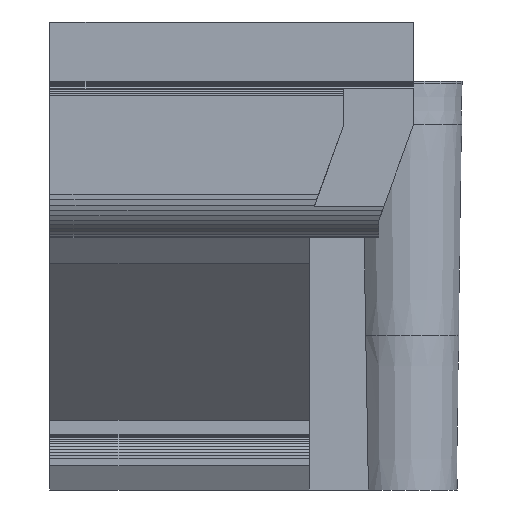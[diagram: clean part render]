
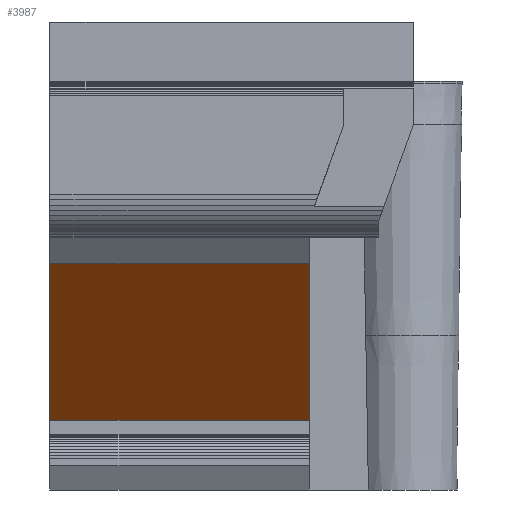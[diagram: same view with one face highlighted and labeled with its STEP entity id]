
A CAD part, front view. The second image highlights one B-rep face of the part: STEP entity #3987.
In plain terms, the highlighted planar face has unit normal (0, -0.707, -0.707).
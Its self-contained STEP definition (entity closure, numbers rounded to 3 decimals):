
#32 = PLANE('',#33);
#33 = AXIS2_PLACEMENT_3D('',#34,#35,#36);
#34 = CARTESIAN_POINT('',(-15.,135.,-0.1));
#35 = DIRECTION('',(1.,0.,-0.));
#36 = DIRECTION('',(0.,0.,1.));
#861 = VERTEX_POINT('',#862);
#862 = CARTESIAN_POINT('',(-15.,156.995,13.005));
#875 = PLANE('',#876);
#876 = AXIS2_PLACEMENT_3D('',#877,#878,#879);
#877 = CARTESIAN_POINT('',(-126.7,156.995,13.005));
#878 = DIRECTION('',(-0.,-0.777,-0.63));
#879 = DIRECTION('',(0.,-0.63,0.777));
#886 = EDGE_CURVE('',#861,#887,#889,.T.);
#887 = VERTEX_POINT('',#888);
#888 = CARTESIAN_POINT('',(-15.,166.,4.));
#889 = SURFACE_CURVE('',#890,(#894,#900),.PCURVE_S1.);
#890 = LINE('',#891,#892);
#891 = CARTESIAN_POINT('',(-15.,159.275,10.725));
#892 = VECTOR('',#893,1.);
#893 = DIRECTION('',(-0.,0.707,-0.707));
#894 = PCURVE('',#32,#895);
#895 = DEFINITIONAL_REPRESENTATION('',(#896),#899);
#896 = B_SPLINE_CURVE_WITH_KNOTS('',1,(#897,#898),.UNSPECIFIED.,.F.,.F.,
  (2,2),(-3.225,9.511),.PIECEWISE_BEZIER_KNOTS.);
#897 = CARTESIAN_POINT('',(13.105,-21.995));
#898 = CARTESIAN_POINT('',(4.1,-31.));
#899 = ( GEOMETRIC_REPRESENTATION_CONTEXT(2) 
PARAMETRIC_REPRESENTATION_CONTEXT() REPRESENTATION_CONTEXT('2D SPACE',''
  ) );
#900 = PCURVE('',#901,#906);
#901 = PLANE('',#902);
#902 = AXIS2_PLACEMENT_3D('',#903,#904,#905);
#903 = CARTESIAN_POINT('',(-126.7,166.,4.));
#904 = DIRECTION('',(-0.,-0.707,-0.707));
#905 = DIRECTION('',(0.,-0.707,0.707));
#906 = DEFINITIONAL_REPRESENTATION('',(#907),#910);
#907 = B_SPLINE_CURVE_WITH_KNOTS('',1,(#908,#909),.UNSPECIFIED.,.F.,.F.,
  (2,2),(-3.225,9.511),.PIECEWISE_BEZIER_KNOTS.);
#908 = CARTESIAN_POINT('',(12.735,-111.7));
#909 = CARTESIAN_POINT('',(0.,-111.7));
#910 = ( GEOMETRIC_REPRESENTATION_CONTEXT(2) 
PARAMETRIC_REPRESENTATION_CONTEXT() REPRESENTATION_CONTEXT('2D SPACE',''
  ) );
#927 = PLANE('',#928);
#928 = AXIS2_PLACEMENT_3D('',#929,#930,#931);
#929 = CARTESIAN_POINT('',(168.,166.,2.8));
#930 = DIRECTION('',(0.,-1.,0.));
#931 = DIRECTION('',(-1.,0.,0.));
#2551 = PLANE('',#2552);
#2552 = AXIS2_PLACEMENT_3D('',#2553,#2554,#2555);
#2553 = CARTESIAN_POINT('',(-0.1,148.4,15.5));
#2554 = DIRECTION('',(1.,0.,0.));
#2555 = DIRECTION('',(-0.,1.,0.));
#3947 = VERTEX_POINT('',#3948);
#3948 = CARTESIAN_POINT('',(-0.1,166.,4.));
#3968 = EDGE_CURVE('',#3947,#887,#3969,.T.);
#3969 = SURFACE_CURVE('',#3970,(#3973,#3979),.PCURVE_S1.);
#3970 = B_SPLINE_CURVE_WITH_KNOTS('',1,(#3971,#3972),.UNSPECIFIED.,.F.,
  .F.,(2,2),(0.,1.),.PIECEWISE_BEZIER_KNOTS.);
#3971 = CARTESIAN_POINT('',(126.7,166.,4.));
#3972 = CARTESIAN_POINT('',(-126.7,166.,4.));
#3973 = PCURVE('',#927,#3974);
#3974 = DEFINITIONAL_REPRESENTATION('',(#3975),#3978);
#3975 = B_SPLINE_CURVE_WITH_KNOTS('',1,(#3976,#3977),.UNSPECIFIED.,.F.,
  .F.,(2,2),(0.,1.),.PIECEWISE_BEZIER_KNOTS.);
#3976 = CARTESIAN_POINT('',(41.3,-1.2));
#3977 = CARTESIAN_POINT('',(294.7,-1.2));
#3978 = ( GEOMETRIC_REPRESENTATION_CONTEXT(2) 
PARAMETRIC_REPRESENTATION_CONTEXT() REPRESENTATION_CONTEXT('2D SPACE',''
  ) );
#3979 = PCURVE('',#901,#3980);
#3980 = DEFINITIONAL_REPRESENTATION('',(#3981),#3984);
#3981 = B_SPLINE_CURVE_WITH_KNOTS('',1,(#3982,#3983),.UNSPECIFIED.,.F.,
  .F.,(2,2),(0.,1.),.PIECEWISE_BEZIER_KNOTS.);
#3982 = CARTESIAN_POINT('',(0.,-253.4));
#3983 = CARTESIAN_POINT('',(0.,0.));
#3984 = ( GEOMETRIC_REPRESENTATION_CONTEXT(2) 
PARAMETRIC_REPRESENTATION_CONTEXT() REPRESENTATION_CONTEXT('2D SPACE',''
  ) );
#3987 = ADVANCED_FACE('',(#3988),#901,.T.);
#3988 = FACE_BOUND('',#3989,.T.);
#3989 = EDGE_LOOP('',(#3990,#3991,#4014,#4032));
#3990 = ORIENTED_EDGE('',*,*,#3968,.F.);
#3991 = ORIENTED_EDGE('',*,*,#3992,.F.);
#3992 = EDGE_CURVE('',#3993,#3947,#3995,.T.);
#3993 = VERTEX_POINT('',#3994);
#3994 = CARTESIAN_POINT('',(-0.1,156.995,13.005));
#3995 = SURFACE_CURVE('',#3996,(#4000,#4007),.PCURVE_S1.);
#3996 = LINE('',#3997,#3998);
#3997 = CARTESIAN_POINT('',(-0.1,156.995,13.005));
#3998 = VECTOR('',#3999,1.);
#3999 = DIRECTION('',(0.,0.707,-0.707));
#4000 = PCURVE('',#901,#4001);
#4001 = DEFINITIONAL_REPRESENTATION('',(#4002),#4006);
#4002 = LINE('',#4003,#4004);
#4003 = CARTESIAN_POINT('',(12.735,-126.6));
#4004 = VECTOR('',#4005,1.);
#4005 = DIRECTION('',(-1.,0.));
#4006 = ( GEOMETRIC_REPRESENTATION_CONTEXT(2) 
PARAMETRIC_REPRESENTATION_CONTEXT() REPRESENTATION_CONTEXT('2D SPACE',''
  ) );
#4007 = PCURVE('',#2551,#4008);
#4008 = DEFINITIONAL_REPRESENTATION('',(#4009),#4013);
#4009 = LINE('',#4010,#4011);
#4010 = CARTESIAN_POINT('',(8.595,-2.495));
#4011 = VECTOR('',#4012,1.);
#4012 = DIRECTION('',(0.707,-0.707));
#4013 = ( GEOMETRIC_REPRESENTATION_CONTEXT(2) 
PARAMETRIC_REPRESENTATION_CONTEXT() REPRESENTATION_CONTEXT('2D SPACE',''
  ) );
#4014 = ORIENTED_EDGE('',*,*,#4015,.T.);
#4015 = EDGE_CURVE('',#3993,#861,#4016,.T.);
#4016 = SURFACE_CURVE('',#4017,(#4020,#4026),.PCURVE_S1.);
#4017 = B_SPLINE_CURVE_WITH_KNOTS('',1,(#4018,#4019),.UNSPECIFIED.,.F.,
  .F.,(2,2),(0.,1.),.PIECEWISE_BEZIER_KNOTS.);
#4018 = CARTESIAN_POINT('',(126.7,156.995,13.005));
#4019 = CARTESIAN_POINT('',(-126.7,156.995,13.005));
#4020 = PCURVE('',#901,#4021);
#4021 = DEFINITIONAL_REPRESENTATION('',(#4022),#4025);
#4022 = B_SPLINE_CURVE_WITH_KNOTS('',1,(#4023,#4024),.UNSPECIFIED.,.F.,
  .F.,(2,2),(0.,1.),.PIECEWISE_BEZIER_KNOTS.);
#4023 = CARTESIAN_POINT('',(12.735,-253.4));
#4024 = CARTESIAN_POINT('',(12.735,0.));
#4025 = ( GEOMETRIC_REPRESENTATION_CONTEXT(2) 
PARAMETRIC_REPRESENTATION_CONTEXT() REPRESENTATION_CONTEXT('2D SPACE',''
  ) );
#4026 = PCURVE('',#875,#4027);
#4027 = DEFINITIONAL_REPRESENTATION('',(#4028),#4031);
#4028 = B_SPLINE_CURVE_WITH_KNOTS('',1,(#4029,#4030),.UNSPECIFIED.,.F.,
  .F.,(2,2),(0.,1.),.PIECEWISE_BEZIER_KNOTS.);
#4029 = CARTESIAN_POINT('',(0.,-253.4));
#4030 = CARTESIAN_POINT('',(0.,0.));
#4031 = ( GEOMETRIC_REPRESENTATION_CONTEXT(2) 
PARAMETRIC_REPRESENTATION_CONTEXT() REPRESENTATION_CONTEXT('2D SPACE',''
  ) );
#4032 = ORIENTED_EDGE('',*,*,#886,.T.);
